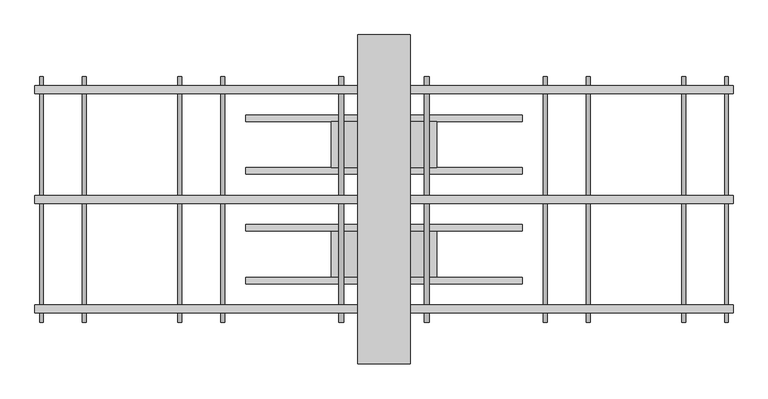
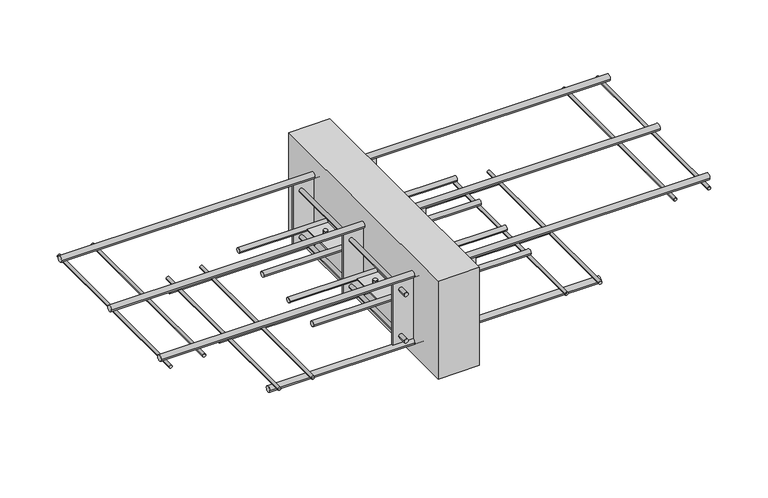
"""IFC4 building model written with IfcOpenShell, lengths in millimetres: fastener geometry, ACINOXplus_Typenreihe_K : KPB+ S2."""

from ifc_helpers import new_model, si_unit, point, frame, frame_2d, origin, place, context, project, spatial, polyline, circle_curve, trimmed, segment, composite_curve, outline, extrude, source, transform, mapped, element, save
from ifc_brep_helpers import plane_surface, cylinder_surface, advanced_brep


def fastener_48263cc2(model_context):
    return source(origin(), model_context, "Body", "SolidModel", [
        extrude(outline(composite_curve([segment(trimmed(circle_curve(frame_2d((-123.3333333, -104.5)), 5.0), [point((-128.3333333, -104.5))], [point((-118.3333333, -104.5))], False, "CARTESIAN"), True, "CONTINUOUS"), segment(trimmed(circle_curve(frame_2d((-123.3333333, -104.5)), 5.0), [point((-118.3333333, -104.5))], [point((-128.3333333, -104.5))], False, "CARTESIAN"), True, "CONTINUOUS")], self_intersect=False)), frame((-210.0, 0.0, 0.0), z_axis=(1.0, 0.0, 0.0), x_axis=(0.0, 1.0, 0.0)), (0.0, 0.0, 1.0), 420.0),
        extrude(outline(composite_curve([segment(trimmed(circle_curve(frame_2d((-43.3333333, -104.5)), 5.0), [point((-48.3333333, -104.5))], [point((-38.3333333, -104.5))], False, "CARTESIAN"), True, "CONTINUOUS"), segment(trimmed(circle_curve(frame_2d((-43.3333333, -104.5)), 5.0), [point((-38.3333333, -104.5))], [point((-48.3333333, -104.5))], False, "CARTESIAN"), True, "CONTINUOUS")], self_intersect=False)), frame((-210.0, 0.0, 0.0), z_axis=(1.0, 0.0, 0.0), x_axis=(0.0, 1.0, 0.0)), (0.0, 0.0, 1.0), 420.0),
        advanced_brep(
        [(-69.0, -83.3333333, -89.5), (-61.0, -83.3333333, -89.5), (61.0, -83.3333333, -89.5), (69.0, -83.3333333, -89.5), (-69.0, -83.3333333, -119.5), (-61.0, -83.3333333, -119.5), (61.0, -83.3333333, -119.5), (69.0, -83.3333333, -119.5), (-69.0, -83.3333333, -103.0), (-61.0, -83.3333333, -103.0), (-61.0, -83.3333333, -106.0), (-69.0, -83.3333333, -106.0), (61.0, -83.3333333, -103.0), (69.0, -83.3333333, -103.0), (69.0, -83.3333333, -106.0), (61.0, -83.3333333, -106.0), (80.0, -48.3333333, -103.0), (-80.0, -48.3333333, -103.0), (-80.0, -118.3333333, -103.0), (80.0, -118.3333333, -103.0), (80.0, -48.3333333, -106.0), (80.0, -118.3333333, -106.0), (-80.0, -118.3333333, -106.0), (-80.0, -48.3333333, -106.0)],
        [
            (0, 1, circle_curve(frame((-65.0, -83.3333333, -89.5), z_axis=(0.0, 0.0, 1.0), x_axis=(1.0, 0.0, 0.0)), 4.0)),
            (1, 0, circle_curve(frame((-65.0, -83.3333333, -89.5), z_axis=(0.0, 0.0, 1.0), x_axis=(1.0, 0.0, 0.0)), 4.0)),
            (2, 3, circle_curve(frame((65.0, -83.3333333, -89.5), z_axis=(0.0, 0.0, 1.0), x_axis=(1.0, 0.0, 0.0)), 4.0)),
            (3, 2, circle_curve(frame((65.0, -83.3333333, -89.5), z_axis=(0.0, 0.0, 1.0), x_axis=(1.0, 0.0, 0.0)), 4.0)),
            (4, 5, circle_curve(frame((-65.0, -83.3333333, -119.5), z_axis=(0.0, 0.0, -1.0), x_axis=(1.0, 0.0, 0.0)), 4.0)),
            (5, 4, circle_curve(frame((-65.0, -83.3333333, -119.5), z_axis=(0.0, 0.0, -1.0), x_axis=(1.0, 0.0, 0.0)), 4.0)),
            (6, 7, circle_curve(frame((65.0, -83.3333333, -119.5), z_axis=(0.0, 0.0, -1.0), x_axis=(1.0, 0.0, 0.0)), 4.0)),
            (7, 6, circle_curve(frame((65.0, -83.3333333, -119.5), z_axis=(0.0, 0.0, -1.0), x_axis=(1.0, 0.0, 0.0)), 4.0)),
            (0, 8),
            (8, 9, circle_curve(frame((-65.0, -83.3333333, -103.0), z_axis=(0.0, 0.0, 1.0), x_axis=(1.0, 0.0, 0.0)), 4.0)),
            (9, 1),
            (5, 10),
            (10, 11, circle_curve(frame((-65.0, -83.3333333, -106.0), z_axis=(0.0, 0.0, -1.0), x_axis=(1.0, 0.0, 0.0)), 4.0)),
            (11, 4),
            (9, 8, circle_curve(frame((-65.0, -83.3333333, -103.0), z_axis=(0.0, 0.0, 1.0), x_axis=(1.0, 0.0, 0.0)), 4.0)),
            (11, 10, circle_curve(frame((-65.0, -83.3333333, -106.0), z_axis=(0.0, 0.0, -1.0), x_axis=(1.0, 0.0, 0.0)), 4.0)),
            (2, 12),
            (12, 13, circle_curve(frame((65.0, -83.3333333, -103.0), z_axis=(0.0, 0.0, 1.0), x_axis=(1.0, 0.0, 0.0)), 4.0)),
            (13, 3),
            (7, 14),
            (14, 15, circle_curve(frame((65.0, -83.3333333, -106.0), z_axis=(0.0, 0.0, -1.0), x_axis=(1.0, 0.0, 0.0)), 4.0)),
            (15, 6),
            (13, 12, circle_curve(frame((65.0, -83.3333333, -103.0), z_axis=(0.0, 0.0, 1.0), x_axis=(1.0, 0.0, 0.0)), 4.0)),
            (15, 14, circle_curve(frame((65.0, -83.3333333, -106.0), z_axis=(0.0, 0.0, -1.0), x_axis=(1.0, 0.0, 0.0)), 4.0)),
            (16, 17),
            (17, 18),
            (18, 19),
            (19, 16),
            (20, 21),
            (21, 22),
            (22, 23),
            (23, 20),
            (16, 20),
            (23, 17),
            (22, 18),
            (21, 19),
        ],
        [
            plane_surface(frame((-61.0, -83.3333333, -89.5), z_axis=(0.0, 0.0, 1.0), x_axis=(0.0, 1.0, 0.0))),
            plane_surface(frame((-61.0, -83.3333333, -119.5), z_axis=(0.0, 0.0, -1.0), x_axis=(0.0, -1.0, 0.0))),
            cylinder_surface(frame((-65.0, -83.3333333, -119.5), z_axis=(0.0, 0.0, 1.0), x_axis=(1.0, 0.0, 0.0)), 4.0),
            cylinder_surface(frame((65.0, -83.3333333, -104.5), z_axis=(0.0, 0.0, 1.0), x_axis=(1.0, 0.0, 0.0)), 4.0),
            plane_surface(frame((-80.0, -48.3333333, -103.0), z_axis=(0.0, 0.0, 1.0), x_axis=(-1.0, 0.0, 0.0))),
            plane_surface(frame((-80.0, -48.3333333, -106.0), z_axis=(0.0, 0.0, -1.0), x_axis=(1.0, 0.0, 0.0))),
            plane_surface(frame((80.0, -48.3333333, -103.0), z_axis=(0.0, 1.0, 0.0), x_axis=(0.0, 0.0, -1.0))),
            plane_surface(frame((-80.0, -48.3333333, -103.0), z_axis=(-1.0, 0.0, 0.0), x_axis=(0.0, 0.0, -1.0))),
            plane_surface(frame((-80.0, -118.3333333, -103.0), z_axis=(0.0, -1.0, 0.0), x_axis=(0.0, 0.0, -1.0))),
            plane_surface(frame((80.0, -118.3333333, -103.0), z_axis=(1.0, 0.0, 0.0), x_axis=(0.0, 0.0, -1.0))),
        ],
        [
            (0, [[1, 2]]),
            (0, [[3, 4]]),
            (1, [[5, 6]]),
            (1, [[7, 8]]),
            (2, [[-1, 9, 10, 11]]),
            (2, [[-6, 12, 13, 14]]),
            (2, [[-2, -11, 15, -9]]),
            (2, [[-5, -14, 16, -12]]),
            (3, [[-3, 17, 18, 19]]),
            (3, [[-8, 20, 21, 22]]),
            (3, [[-4, -19, 23, -17]]),
            (3, [[-7, -22, 24, -20]]),
            (4, [[25, 26, 27, 28], [-10, -15], [-18, -23]]),
            (5, [[29, 30, 31, 32], [-13, -16], [-21, -24]]),
            (6, [[-25, 33, -32, 34]]),
            (7, [[-26, -34, -31, 35]]),
            (8, [[-27, -35, -30, 36]]),
            (9, [[-28, -36, -29, -33]]),
        ],
    ),
        extrude(outline(composite_curve([segment(trimmed(circle_curve(frame_2d((43.3333333, -104.5)), 5.0), [point((38.3333333, -104.5))], [point((48.3333333, -104.5))], False, "CARTESIAN"), True, "CONTINUOUS"), segment(trimmed(circle_curve(frame_2d((43.3333333, -104.5)), 5.0), [point((48.3333333, -104.5))], [point((38.3333333, -104.5))], False, "CARTESIAN"), True, "CONTINUOUS")], self_intersect=False)), frame((-210.0, 0.0, 0.0), z_axis=(1.0, 0.0, 0.0), x_axis=(0.0, 1.0, 0.0)), (0.0, 0.0, 1.0), 420.0),
        extrude(outline(composite_curve([segment(trimmed(circle_curve(frame_2d((123.3333333, -104.5)), 5.0), [point((118.3333333, -104.5))], [point((128.3333333, -104.5))], False, "CARTESIAN"), True, "CONTINUOUS"), segment(trimmed(circle_curve(frame_2d((123.3333333, -104.5)), 5.0), [point((128.3333333, -104.5))], [point((118.3333333, -104.5))], False, "CARTESIAN"), True, "CONTINUOUS")], self_intersect=False)), frame((-210.0, 0.0, 0.0), z_axis=(1.0, 0.0, 0.0), x_axis=(0.0, 1.0, 0.0)), (0.0, 0.0, 1.0), 420.0),
        advanced_brep(
        [(-69.0, 83.3333333, -89.5), (-61.0, 83.3333333, -89.5), (61.0, 83.3333333, -89.5), (69.0, 83.3333333, -89.5), (-69.0, 83.3333333, -119.5), (-61.0, 83.3333333, -119.5), (61.0, 83.3333333, -119.5), (69.0, 83.3333333, -119.5), (-69.0, 83.3333333, -103.0), (-61.0, 83.3333333, -103.0), (-61.0, 83.3333333, -106.0), (-69.0, 83.3333333, -106.0), (61.0, 83.3333333, -103.0), (69.0, 83.3333333, -103.0), (69.0, 83.3333333, -106.0), (61.0, 83.3333333, -106.0), (80.0, 118.3333333, -103.0), (-80.0, 118.3333333, -103.0), (-80.0, 48.3333333, -103.0), (80.0, 48.3333333, -103.0), (80.0, 118.3333333, -106.0), (80.0, 48.3333333, -106.0), (-80.0, 48.3333333, -106.0), (-80.0, 118.3333333, -106.0)],
        [
            (0, 1, circle_curve(frame((-65.0, 83.3333333, -89.5), z_axis=(0.0, 0.0, 1.0), x_axis=(1.0, 0.0, 0.0)), 4.0)),
            (1, 0, circle_curve(frame((-65.0, 83.3333333, -89.5), z_axis=(0.0, 0.0, 1.0), x_axis=(1.0, 0.0, 0.0)), 4.0)),
            (2, 3, circle_curve(frame((65.0, 83.3333333, -89.5), z_axis=(0.0, 0.0, 1.0), x_axis=(1.0, 0.0, 0.0)), 4.0)),
            (3, 2, circle_curve(frame((65.0, 83.3333333, -89.5), z_axis=(0.0, 0.0, 1.0), x_axis=(1.0, 0.0, 0.0)), 4.0)),
            (4, 5, circle_curve(frame((-65.0, 83.3333333, -119.5), z_axis=(0.0, 0.0, -1.0), x_axis=(1.0, 0.0, 0.0)), 4.0)),
            (5, 4, circle_curve(frame((-65.0, 83.3333333, -119.5), z_axis=(0.0, 0.0, -1.0), x_axis=(1.0, 0.0, 0.0)), 4.0)),
            (6, 7, circle_curve(frame((65.0, 83.3333333, -119.5), z_axis=(0.0, 0.0, -1.0), x_axis=(1.0, 0.0, 0.0)), 4.0)),
            (7, 6, circle_curve(frame((65.0, 83.3333333, -119.5), z_axis=(0.0, 0.0, -1.0), x_axis=(1.0, 0.0, 0.0)), 4.0)),
            (0, 8),
            (8, 9, circle_curve(frame((-65.0, 83.3333333, -103.0), z_axis=(0.0, 0.0, 1.0), x_axis=(1.0, 0.0, 0.0)), 4.0)),
            (9, 1),
            (5, 10),
            (10, 11, circle_curve(frame((-65.0, 83.3333333, -106.0), z_axis=(0.0, 0.0, -1.0), x_axis=(1.0, 0.0, 0.0)), 4.0)),
            (11, 4),
            (9, 8, circle_curve(frame((-65.0, 83.3333333, -103.0), z_axis=(0.0, 0.0, 1.0), x_axis=(1.0, 0.0, 0.0)), 4.0)),
            (11, 10, circle_curve(frame((-65.0, 83.3333333, -106.0), z_axis=(0.0, 0.0, -1.0), x_axis=(1.0, 0.0, 0.0)), 4.0)),
            (2, 12),
            (12, 13, circle_curve(frame((65.0, 83.3333333, -103.0), z_axis=(0.0, 0.0, 1.0), x_axis=(1.0, 0.0, 0.0)), 4.0)),
            (13, 3),
            (7, 14),
            (14, 15, circle_curve(frame((65.0, 83.3333333, -106.0), z_axis=(0.0, 0.0, -1.0), x_axis=(1.0, 0.0, 0.0)), 4.0)),
            (15, 6),
            (13, 12, circle_curve(frame((65.0, 83.3333333, -103.0), z_axis=(0.0, 0.0, 1.0), x_axis=(1.0, 0.0, 0.0)), 4.0)),
            (15, 14, circle_curve(frame((65.0, 83.3333333, -106.0), z_axis=(0.0, 0.0, -1.0), x_axis=(1.0, 0.0, 0.0)), 4.0)),
            (16, 17),
            (17, 18),
            (18, 19),
            (19, 16),
            (20, 21),
            (21, 22),
            (22, 23),
            (23, 20),
            (16, 20),
            (23, 17),
            (22, 18),
            (21, 19),
        ],
        [
            plane_surface(frame((-61.0, 83.3333333, -89.5), z_axis=(0.0, 0.0, 1.0), x_axis=(0.0, 1.0, 0.0))),
            plane_surface(frame((-61.0, 83.3333333, -119.5), z_axis=(0.0, 0.0, -1.0), x_axis=(0.0, -1.0, 0.0))),
            cylinder_surface(frame((-65.0, 83.3333333, -119.5), z_axis=(0.0, 0.0, 1.0), x_axis=(1.0, 0.0, 0.0)), 4.0),
            cylinder_surface(frame((65.0, 83.3333333, -104.5), z_axis=(0.0, 0.0, 1.0), x_axis=(1.0, 0.0, 0.0)), 4.0),
            plane_surface(frame((-80.0, 118.3333333, -103.0), z_axis=(0.0, 0.0, 1.0), x_axis=(-1.0, 0.0, 0.0))),
            plane_surface(frame((-80.0, 118.3333333, -106.0), z_axis=(0.0, 0.0, -1.0), x_axis=(1.0, 0.0, 0.0))),
            plane_surface(frame((80.0, 118.3333333, -103.0), z_axis=(0.0, 1.0, 0.0), x_axis=(0.0, 0.0, -1.0))),
            plane_surface(frame((-80.0, 118.3333333, -103.0), z_axis=(-1.0, 0.0, 0.0), x_axis=(0.0, 0.0, -1.0))),
            plane_surface(frame((-80.0, 48.3333333, -103.0), z_axis=(0.0, -1.0, 0.0), x_axis=(0.0, 0.0, -1.0))),
            plane_surface(frame((80.0, 48.3333333, -103.0), z_axis=(1.0, 0.0, 0.0), x_axis=(0.0, 0.0, -1.0))),
        ],
        [
            (0, [[1, 2]]),
            (0, [[3, 4]]),
            (1, [[5, 6]]),
            (1, [[7, 8]]),
            (2, [[-1, 9, 10, 11]]),
            (2, [[-6, 12, 13, 14]]),
            (2, [[-2, -11, 15, -9]]),
            (2, [[-5, -14, 16, -12]]),
            (3, [[-3, 17, 18, 19]]),
            (3, [[-8, 20, 21, 22]]),
            (3, [[-4, -19, 23, -17]]),
            (3, [[-7, -22, 24, -20]]),
            (4, [[25, 26, 27, 28], [-10, -15], [-18, -23]]),
            (5, [[29, 30, 31, 32], [-13, -16], [-21, -24]]),
            (6, [[-25, 33, -32, 34]]),
            (7, [[-26, -34, -31, 35]]),
            (8, [[-27, -35, -30, 36]]),
            (9, [[-28, -36, -29, -33]]),
        ],
    ),
        extrude(outline(polyline([(40.0, 250.0), (40.0, -250.0), (-40.0, -250.0), (-40.0, 250.0), (40.0, 250.0)])), frame((0.0, 0.0, -200.0), z_axis=(0.0, 0.0, 1.0), x_axis=(1.0, 0.0, 0.0)), (0.0, 0.0, 1.0), 200.0),
        extrude(outline(polyline([(80.0, 1.5), (80.0, -1.5), (-80.0, -1.5), (-80.0, 1.5), (80.0, 1.5)])), frame((0.0, 0.0, -167.0), z_axis=(0.0, 0.0, 1.0), x_axis=(1.0, 0.0, 0.0)), (0.0, 0.0, 1.0), 125.0),
        extrude(outline(polyline([(80.0, -165.1666667), (80.0, -168.1666667), (-80.0, -168.1666667), (-80.0, -165.1666667), (80.0, -165.1666667)])), frame((0.0, 0.0, -167.0), z_axis=(0.0, 0.0, 1.0), x_axis=(1.0, 0.0, 0.0)), (0.0, 0.0, 1.0), 125.0),
        extrude(outline(polyline([(80.0, 168.1666667), (80.0, 165.1666667), (-80.0, 165.1666667), (-80.0, 168.1666667), (80.0, 168.1666667)])), frame((0.0, 0.0, -167.0), z_axis=(0.0, 0.0, 1.0), x_axis=(1.0, 0.0, 0.0)), (0.0, 0.0, 1.0), 125.0),
        extrude(outline(composite_curve([segment(trimmed(circle_curve(frame_2d((-152.0, -65.0)), 4.0), [point((-152.0, -69.0))], [point((-152.0, -61.0))], False, "CARTESIAN"), True, "CONTINUOUS"), segment(trimmed(circle_curve(frame_2d((-152.0, -65.0)), 4.0), [point((-152.0, -61.0))], [point((-152.0, -69.0))], False, "CARTESIAN"), True, "CONTINUOUS")], self_intersect=False)), frame((0.0, 168.1666667, 0.0), z_axis=(0.0, 1.0, 0.0), x_axis=(0.0, 0.0, 1.0)), (0.0, 0.0, 1.0), 18.5),
        extrude(outline(composite_curve([segment(trimmed(circle_curve(frame_2d((-152.0, -65.0)), 4.0), [point((-152.0, -61.0))], [point((-152.0, -69.0))], False, "CARTESIAN"), True, "CONTINUOUS"), segment(trimmed(circle_curve(frame_2d((-152.0, -65.0)), 4.0), [point((-152.0, -69.0))], [point((-152.0, -61.0))], False, "CARTESIAN"), True, "CONTINUOUS")], self_intersect=False)), frame((0.0, -186.6666667, 0.0), z_axis=(0.0, 1.0, 0.0), x_axis=(0.0, 0.0, 1.0)), (0.0, 0.0, 1.0), 18.5),
        extrude(outline(composite_curve([segment(trimmed(circle_curve(frame_2d((-152.0, -65.0)), 4.0), [point((-152.0, -69.0))], [point((-152.0, -61.0))], False, "CARTESIAN"), True, "CONTINUOUS"), segment(trimmed(circle_curve(frame_2d((-152.0, -65.0)), 4.0), [point((-152.0, -61.0))], [point((-152.0, -69.0))], False, "CARTESIAN"), True, "CONTINUOUS")], self_intersect=False)), frame((0.0, -165.1666667, 0.0), z_axis=(0.0, 1.0, 0.0), x_axis=(0.0, 0.0, 1.0)), (0.0, 0.0, 1.0), 163.6666667),
        extrude(outline(composite_curve([segment(trimmed(circle_curve(frame_2d((-152.0, -65.0)), 4.0), [point((-152.0, -69.0))], [point((-152.0, -61.0))], False, "CARTESIAN"), True, "CONTINUOUS"), segment(trimmed(circle_curve(frame_2d((-152.0, -65.0)), 4.0), [point((-152.0, -61.0))], [point((-152.0, -69.0))], False, "CARTESIAN"), True, "CONTINUOUS")], self_intersect=False)), frame((0.0, 1.5, 0.0), z_axis=(0.0, 1.0, 0.0), x_axis=(0.0, 0.0, 1.0)), (0.0, 0.0, 1.0), 163.6666667),
        extrude(outline(composite_curve([segment(trimmed(circle_curve(frame_2d((-152.0, 65.0)), 4.0), [point((-152.0, 61.0))], [point((-152.0, 69.0))], False, "CARTESIAN"), True, "CONTINUOUS"), segment(trimmed(circle_curve(frame_2d((-152.0, 65.0)), 4.0), [point((-152.0, 69.0))], [point((-152.0, 61.0))], False, "CARTESIAN"), True, "CONTINUOUS")], self_intersect=False)), frame((0.0, 168.1666667, 0.0), z_axis=(0.0, 1.0, 0.0), x_axis=(0.0, 0.0, 1.0)), (0.0, 0.0, 1.0), 18.5),
        extrude(outline(composite_curve([segment(trimmed(circle_curve(frame_2d((-152.0, 65.0)), 4.0), [point((-152.0, 69.0))], [point((-152.0, 61.0))], False, "CARTESIAN"), True, "CONTINUOUS"), segment(trimmed(circle_curve(frame_2d((-152.0, 65.0)), 4.0), [point((-152.0, 61.0))], [point((-152.0, 69.0))], False, "CARTESIAN"), True, "CONTINUOUS")], self_intersect=False)), frame((0.0, -186.6666667, 0.0), z_axis=(0.0, 1.0, 0.0), x_axis=(0.0, 0.0, 1.0)), (0.0, 0.0, 1.0), 18.5),
        extrude(outline(composite_curve([segment(trimmed(circle_curve(frame_2d((-152.0, 65.0)), 4.0), [point((-152.0, 61.0))], [point((-152.0, 69.0))], False, "CARTESIAN"), True, "CONTINUOUS"), segment(trimmed(circle_curve(frame_2d((-152.0, 65.0)), 4.0), [point((-152.0, 69.0))], [point((-152.0, 61.0))], False, "CARTESIAN"), True, "CONTINUOUS")], self_intersect=False)), frame((0.0, -165.1666667, 0.0), z_axis=(0.0, 1.0, 0.0), x_axis=(0.0, 0.0, 1.0)), (0.0, 0.0, 1.0), 163.6666667),
        extrude(outline(composite_curve([segment(trimmed(circle_curve(frame_2d((-152.0, 65.0)), 4.0), [point((-152.0, 61.0))], [point((-152.0, 69.0))], False, "CARTESIAN"), True, "CONTINUOUS"), segment(trimmed(circle_curve(frame_2d((-152.0, 65.0)), 4.0), [point((-152.0, 69.0))], [point((-152.0, 61.0))], False, "CARTESIAN"), True, "CONTINUOUS")], self_intersect=False)), frame((0.0, 1.5, 0.0), z_axis=(0.0, 1.0, 0.0), x_axis=(0.0, 0.0, 1.0)), (0.0, 0.0, 1.0), 163.6666667),
        extrude(outline(composite_curve([segment(trimmed(circle_curve(frame_2d((-57.0, -65.0)), 4.0), [point((-57.0, -69.0))], [point((-57.0, -61.0))], False, "CARTESIAN"), True, "CONTINUOUS"), segment(trimmed(circle_curve(frame_2d((-57.0, -65.0)), 4.0), [point((-57.0, -61.0))], [point((-57.0, -69.0))], False, "CARTESIAN"), True, "CONTINUOUS")], self_intersect=False)), frame((0.0, 168.1666667, 0.0), z_axis=(0.0, 1.0, 0.0), x_axis=(0.0, 0.0, 1.0)), (0.0, 0.0, 1.0), 18.5),
        extrude(outline(composite_curve([segment(trimmed(circle_curve(frame_2d((-57.0, -65.0)), 4.0), [point((-57.0, -61.0))], [point((-57.0, -69.0))], False, "CARTESIAN"), True, "CONTINUOUS"), segment(trimmed(circle_curve(frame_2d((-57.0, -65.0)), 4.0), [point((-57.0, -69.0))], [point((-57.0, -61.0))], False, "CARTESIAN"), True, "CONTINUOUS")], self_intersect=False)), frame((0.0, -186.6666667, 0.0), z_axis=(0.0, 1.0, 0.0), x_axis=(0.0, 0.0, 1.0)), (0.0, 0.0, 1.0), 18.5),
        extrude(outline(composite_curve([segment(trimmed(circle_curve(frame_2d((-57.0, -65.0)), 4.0), [point((-57.0, -69.0))], [point((-57.0, -61.0))], False, "CARTESIAN"), True, "CONTINUOUS"), segment(trimmed(circle_curve(frame_2d((-57.0, -65.0)), 4.0), [point((-57.0, -61.0))], [point((-57.0, -69.0))], False, "CARTESIAN"), True, "CONTINUOUS")], self_intersect=False)), frame((0.0, -165.1666667, 0.0), z_axis=(0.0, 1.0, 0.0), x_axis=(0.0, 0.0, 1.0)), (0.0, 0.0, 1.0), 163.6666667),
        extrude(outline(composite_curve([segment(trimmed(circle_curve(frame_2d((-57.0, -65.0)), 4.0), [point((-57.0, -69.0))], [point((-57.0, -61.0))], False, "CARTESIAN"), True, "CONTINUOUS"), segment(trimmed(circle_curve(frame_2d((-57.0, -65.0)), 4.0), [point((-57.0, -61.0))], [point((-57.0, -69.0))], False, "CARTESIAN"), True, "CONTINUOUS")], self_intersect=False)), frame((0.0, 1.5, 0.0), z_axis=(0.0, 1.0, 0.0), x_axis=(0.0, 0.0, 1.0)), (0.0, 0.0, 1.0), 163.6666667),
        extrude(outline(composite_curve([segment(trimmed(circle_curve(frame_2d((-57.0, 65.0)), 4.0), [point((-57.0, 61.0))], [point((-57.0, 69.0))], False, "CARTESIAN"), True, "CONTINUOUS"), segment(trimmed(circle_curve(frame_2d((-57.0, 65.0)), 4.0), [point((-57.0, 69.0))], [point((-57.0, 61.0))], False, "CARTESIAN"), True, "CONTINUOUS")], self_intersect=False)), frame((0.0, 168.1666667, 0.0), z_axis=(0.0, 1.0, 0.0), x_axis=(0.0, 0.0, 1.0)), (0.0, 0.0, 1.0), 18.5),
        extrude(outline(composite_curve([segment(trimmed(circle_curve(frame_2d((-57.0, 65.0)), 4.0), [point((-57.0, 69.0))], [point((-57.0, 61.0))], False, "CARTESIAN"), True, "CONTINUOUS"), segment(trimmed(circle_curve(frame_2d((-57.0, 65.0)), 4.0), [point((-57.0, 61.0))], [point((-57.0, 69.0))], False, "CARTESIAN"), True, "CONTINUOUS")], self_intersect=False)), frame((0.0, -186.6666667, 0.0), z_axis=(0.0, 1.0, 0.0), x_axis=(0.0, 0.0, 1.0)), (0.0, 0.0, 1.0), 18.5),
        extrude(outline(composite_curve([segment(trimmed(circle_curve(frame_2d((-57.0, 65.0)), 4.0), [point((-57.0, 61.0))], [point((-57.0, 69.0))], False, "CARTESIAN"), True, "CONTINUOUS"), segment(trimmed(circle_curve(frame_2d((-57.0, 65.0)), 4.0), [point((-57.0, 69.0))], [point((-57.0, 61.0))], False, "CARTESIAN"), True, "CONTINUOUS")], self_intersect=False)), frame((0.0, -165.1666667, 0.0), z_axis=(0.0, 1.0, 0.0), x_axis=(0.0, 0.0, 1.0)), (0.0, 0.0, 1.0), 163.6666667),
        extrude(outline(composite_curve([segment(trimmed(circle_curve(frame_2d((-57.0, 65.0)), 4.0), [point((-57.0, 61.0))], [point((-57.0, 69.0))], False, "CARTESIAN"), True, "CONTINUOUS"), segment(trimmed(circle_curve(frame_2d((-57.0, 65.0)), 4.0), [point((-57.0, 69.0))], [point((-57.0, 61.0))], False, "CARTESIAN"), True, "CONTINUOUS")], self_intersect=False)), frame((0.0, 1.5, 0.0), z_axis=(0.0, 1.0, 0.0), x_axis=(0.0, 0.0, 1.0)), (0.0, 0.0, 1.0), 163.6666667),
        extrude(outline(composite_curve([segment(trimmed(circle_curve(frame_2d((0.0, -173.0)), 6.0), [point((-6.0, -173.0))], [point((6.0, -173.0))], False, "CARTESIAN"), True, "CONTINUOUS"), segment(trimmed(circle_curve(frame_2d((0.0, -173.0)), 6.0), [point((6.0, -173.0))], [point((-6.0, -173.0))], False, "CARTESIAN"), True, "CONTINUOUS")], self_intersect=False)), frame((-320.0, 0.0, 0.0), z_axis=(1.0, 0.0, 0.0), x_axis=(0.0, 1.0, 0.0)), (0.0, 0.0, 1.0), 640.0),
        extrude(outline(composite_curve([segment(trimmed(circle_curve(frame_2d((166.6666667, -173.0)), 6.0), [point((160.6666667, -173.0))], [point((172.6666667, -173.0))], False, "CARTESIAN"), True, "CONTINUOUS"), segment(trimmed(circle_curve(frame_2d((166.6666667, -173.0)), 6.0), [point((172.6666667, -173.0))], [point((160.6666667, -173.0))], False, "CARTESIAN"), True, "CONTINUOUS")], self_intersect=False)), frame((-320.0, 0.0, 0.0), z_axis=(1.0, 0.0, 0.0), x_axis=(0.0, 1.0, 0.0)), (0.0, 0.0, 1.0), 640.0),
        extrude(outline(composite_curve([segment(trimmed(circle_curve(frame_2d((-166.6666667, -173.0)), 6.0), [point((-172.6666667, -173.0))], [point((-160.6666667, -173.0))], False, "CARTESIAN"), True, "CONTINUOUS"), segment(trimmed(circle_curve(frame_2d((-166.6666667, -173.0)), 6.0), [point((-160.6666667, -173.0))], [point((-172.6666667, -173.0))], False, "CARTESIAN"), True, "CONTINUOUS")], self_intersect=False)), frame((-320.0, 0.0, 0.0), z_axis=(1.0, 0.0, 0.0), x_axis=(0.0, 1.0, 0.0)), (0.0, 0.0, 1.0), 640.0),
        extrude(outline(composite_curve([segment(trimmed(circle_curve(frame_2d((0.0, -36.0)), 6.0), [point((-6.0, -36.0))], [point((6.0, -36.0))], False, "CARTESIAN"), True, "CONTINUOUS"), segment(trimmed(circle_curve(frame_2d((0.0, -36.0)), 6.0), [point((6.0, -36.0))], [point((-6.0, -36.0))], False, "CARTESIAN"), True, "CONTINUOUS")], self_intersect=False)), frame((-530.0, 0.0, 0.0), z_axis=(1.0, 0.0, 0.0), x_axis=(0.0, 1.0, 0.0)), (0.0, 0.0, 1.0), 1060.0),
        extrude(outline(composite_curve([segment(trimmed(circle_curve(frame_2d((166.6666667, -36.0)), 6.0), [point((160.6666667, -36.0))], [point((172.6666667, -36.0))], False, "CARTESIAN"), True, "CONTINUOUS"), segment(trimmed(circle_curve(frame_2d((166.6666667, -36.0)), 6.0), [point((172.6666667, -36.0))], [point((160.6666667, -36.0))], False, "CARTESIAN"), True, "CONTINUOUS")], self_intersect=False)), frame((-530.0, 0.0, 0.0), z_axis=(1.0, 0.0, 0.0), x_axis=(0.0, 1.0, 0.0)), (0.0, 0.0, 1.0), 1060.0),
        extrude(outline(composite_curve([segment(trimmed(circle_curve(frame_2d((-166.6666667, -36.0)), 6.0), [point((-172.6666667, -36.0))], [point((-160.6666667, -36.0))], False, "CARTESIAN"), True, "CONTINUOUS"), segment(trimmed(circle_curve(frame_2d((-166.6666667, -36.0)), 6.0), [point((-160.6666667, -36.0))], [point((-172.6666667, -36.0))], False, "CARTESIAN"), True, "CONTINUOUS")], self_intersect=False)), frame((-530.0, 0.0, 0.0), z_axis=(1.0, 0.0, 0.0), x_axis=(0.0, 1.0, 0.0)), (0.0, 0.0, 1.0), 1060.0),
        extrude(outline(composite_curve([segment(trimmed(circle_curve(frame_2d((-164.0, -310.0)), 3.0), [point((-164.0, -307.0))], [point((-164.0, -313.0))], False, "CARTESIAN"), True, "CONTINUOUS"), segment(trimmed(circle_curve(frame_2d((-164.0, -310.0)), 3.0), [point((-164.0, -313.0))], [point((-164.0, -307.0))], False, "CARTESIAN"), True, "CONTINUOUS")], self_intersect=False)), frame((0.0, -186.6666667, 0.0), z_axis=(0.0, 1.0, 0.0), x_axis=(0.0, 0.0, 1.0)), (0.0, 0.0, 1.0), 373.3333333),
        extrude(outline(composite_curve([segment(trimmed(circle_curve(frame_2d((-164.0, -245.0)), 3.0), [point((-164.0, -242.0))], [point((-164.0, -248.0))], False, "CARTESIAN"), True, "CONTINUOUS"), segment(trimmed(circle_curve(frame_2d((-164.0, -245.0)), 3.0), [point((-164.0, -248.0))], [point((-164.0, -242.0))], False, "CARTESIAN"), True, "CONTINUOUS")], self_intersect=False)), frame((0.0, -186.6666667, 0.0), z_axis=(0.0, 1.0, 0.0), x_axis=(0.0, 0.0, 1.0)), (0.0, 0.0, 1.0), 373.3333333),
        extrude(outline(composite_curve([segment(trimmed(circle_curve(frame_2d((-164.0, 245.0)), 3.0), [point((-164.0, 248.0))], [point((-164.0, 242.0))], False, "CARTESIAN"), True, "CONTINUOUS"), segment(trimmed(circle_curve(frame_2d((-164.0, 245.0)), 3.0), [point((-164.0, 242.0))], [point((-164.0, 248.0))], False, "CARTESIAN"), True, "CONTINUOUS")], self_intersect=False)), frame((0.0, -186.6666667, 0.0), z_axis=(0.0, 1.0, 0.0), x_axis=(0.0, 0.0, 1.0)), (0.0, 0.0, 1.0), 373.3333333),
        extrude(outline(composite_curve([segment(trimmed(circle_curve(frame_2d((-164.0, 310.0)), 3.0), [point((-164.0, 313.0))], [point((-164.0, 307.0))], False, "CARTESIAN"), True, "CONTINUOUS"), segment(trimmed(circle_curve(frame_2d((-164.0, 310.0)), 3.0), [point((-164.0, 307.0))], [point((-164.0, 313.0))], False, "CARTESIAN"), True, "CONTINUOUS")], self_intersect=False)), frame((0.0, -186.6666667, 0.0), z_axis=(0.0, 1.0, 0.0), x_axis=(0.0, 0.0, 1.0)), (0.0, 0.0, 1.0), 373.3333333),
        extrude(outline(composite_curve([segment(trimmed(circle_curve(frame_2d((-45.0, 455.0)), 3.0), [point((-45.0, 458.0))], [point((-45.0, 452.0))], False, "CARTESIAN"), True, "CONTINUOUS"), segment(trimmed(circle_curve(frame_2d((-45.0, 455.0)), 3.0), [point((-45.0, 452.0))], [point((-45.0, 458.0))], False, "CARTESIAN"), True, "CONTINUOUS")], self_intersect=False)), frame((0.0, -186.6666667, 0.0), z_axis=(0.0, 1.0, 0.0), x_axis=(0.0, 0.0, 1.0)), (0.0, 0.0, 1.0), 373.3333333),
        extrude(outline(composite_curve([segment(trimmed(circle_curve(frame_2d((-45.0, 520.0)), 3.0), [point((-45.0, 523.0))], [point((-45.0, 517.0))], False, "CARTESIAN"), True, "CONTINUOUS"), segment(trimmed(circle_curve(frame_2d((-45.0, 520.0)), 3.0), [point((-45.0, 517.0))], [point((-45.0, 523.0))], False, "CARTESIAN"), True, "CONTINUOUS")], self_intersect=False)), frame((0.0, -186.6666667, 0.0), z_axis=(0.0, 1.0, 0.0), x_axis=(0.0, 0.0, 1.0)), (0.0, 0.0, 1.0), 373.3333333),
        extrude(outline(composite_curve([segment(trimmed(circle_curve(frame_2d((-45.0, -520.0)), 3.0), [point((-45.0, -517.0))], [point((-45.0, -523.0))], False, "CARTESIAN"), True, "CONTINUOUS"), segment(trimmed(circle_curve(frame_2d((-45.0, -520.0)), 3.0), [point((-45.0, -523.0))], [point((-45.0, -517.0))], False, "CARTESIAN"), True, "CONTINUOUS")], self_intersect=False)), frame((0.0, -186.6666667, 0.0), z_axis=(0.0, 1.0, 0.0), x_axis=(0.0, 0.0, 1.0)), (0.0, 0.0, 1.0), 373.3333333),
        extrude(outline(composite_curve([segment(trimmed(circle_curve(frame_2d((-45.0, -455.0)), 3.0), [point((-45.0, -452.0))], [point((-45.0, -458.0))], False, "CARTESIAN"), True, "CONTINUOUS"), segment(trimmed(circle_curve(frame_2d((-45.0, -455.0)), 3.0), [point((-45.0, -458.0))], [point((-45.0, -452.0))], False, "CARTESIAN"), True, "CONTINUOUS")], self_intersect=False)), frame((0.0, -186.6666667, 0.0), z_axis=(0.0, 1.0, 0.0), x_axis=(0.0, 0.0, 1.0)), (0.0, 0.0, 1.0), 373.3333333),
    ])


if __name__ == "__main__":
    model = new_model("IFC4")
    model_context = context("Model", 3, world=origin())
    ifc_project = project(units=[si_unit("LENGTHUNIT", "METRE", prefix="MILLI")], contexts=[model_context])
    site = spatial("IfcSite", under=ifc_project)
    building = spatial("IfcBuilding", under=site)
    placement = place(None, origin())
    fastener_shape = fastener_48263cc2(model_context)
    element("IfcFastener", 1, ObjectType="ACINOXplus_Typenreihe_K : KPB+ S2", at=placement, inside=building, context=model_context, shape_type="MappedRepresentation", body=[
        mapped(fastener_shape, transform((0.0, 0.0, 0.0), x_axis=(1.0, 0.0, 0.0), y_axis=(0.0, 1.0, 0.0), z_axis=(0.0, 0.0, 1.0))),
    ])
    save(model, "model.ifc")
